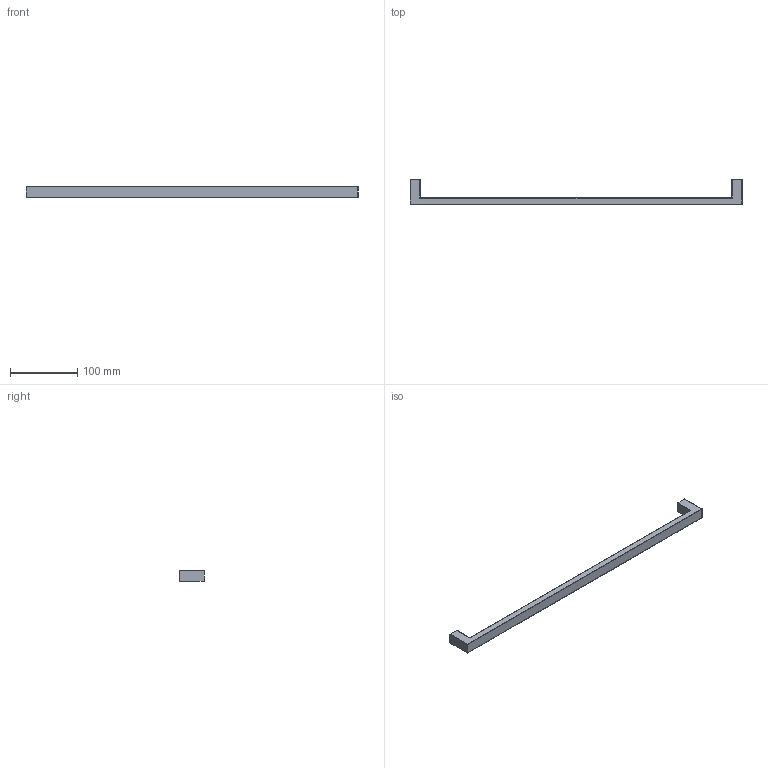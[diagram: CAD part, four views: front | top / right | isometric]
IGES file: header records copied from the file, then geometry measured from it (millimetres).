
Start section: Data from Parasolid IGES Translator 15.0.47, Copyright(c) 2006 Siemens P LM Software. All Rights Reserved.
Global section: file name: 9207357.igs; native system:  By UGS Corp.; preprocessor: XPlus GENERIC/IGES 3.0; author: Noname; organization: Noname; date: 20151204.114037; units: millimetre
Bounding box: 495 x 37 x 16 mm (x, y, z)
Surface area: 29128.7 mm2 (no closed solid volume)
Topology: 0 solids, 0 shells, 34 faces, 164 edges, 162 vertices
Faces by surface type: revolution 18, extrusion 16
